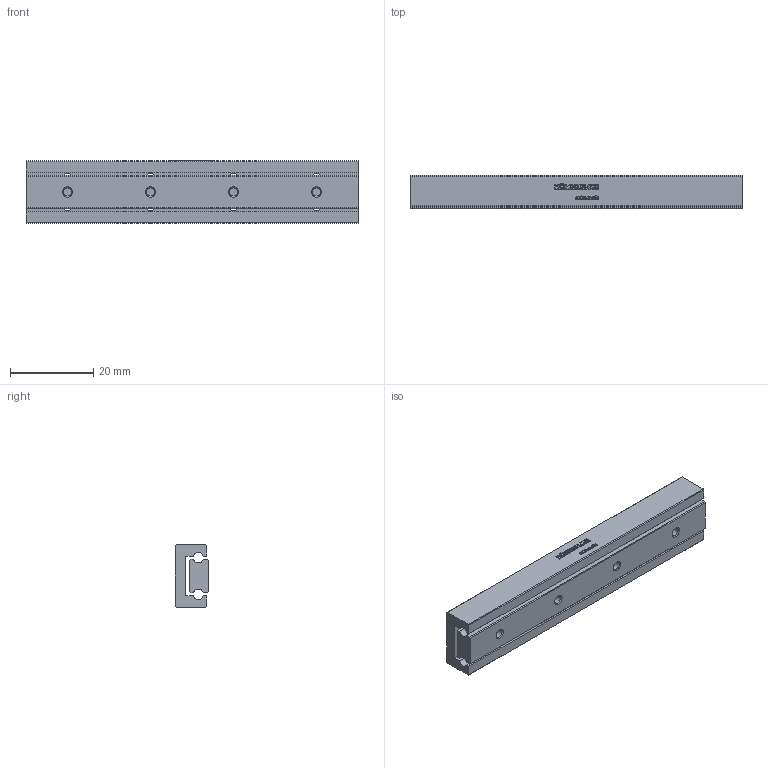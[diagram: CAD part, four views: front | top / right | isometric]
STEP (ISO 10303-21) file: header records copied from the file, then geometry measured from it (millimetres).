
FILE_DESCRIPTION(/* description */ ('STEP AP214'),/* implementation_level */ '2;1');
FILE_NAME(/* name */ 'NDN 2-80.70(0)',/* time_stamp */ '2025-04-16T17:13:13+02:00',/* author */ ('License CC BY-ND 4.0'),/* organization */ ('CADENAS'),/* preprocessor_version */ 'ST-DEVELOPER v19.3',/* originating_system */ 'PARTsolutions',/* authorisation */ ' ');
FILE_SCHEMA (('AUTOMOTIVE_DESIGN {1 0 10303 214 3 1 1}'));
Length unit declared in the file: millimetre
Products named in the file (3): NDN 2-80.70(0); NDN 2-80.70_1; NDN 2-80.70_2
Assembly tree (2 placements, depth 2):
  NDN 2-80.70(0)
    NDN 2-80.70_1
    NDN 2-80.70_2
Bounding box: 80 x 8 x 15 mm (x, y, z)
Volume: 7430.1 mm3; surface area: 6924.2 mm2
Topology: 2 solids, 2 shells, 525 faces, 1466 edges, 972 vertices
Faces by surface type: cylinder 308, plane 201, cone 16
Full cylindrical faces by diameter (mm): 2.013 x12
Entity records: 17087 total; most frequent: DIRECTION 3126, CARTESIAN_POINT 2938, ORIENTED_EDGE 2876, EDGE_CURVE 1438, AXIS2_PLACEMENT_3D 1160, VERTEX_POINT 972, LINE 806, VECTOR 806
